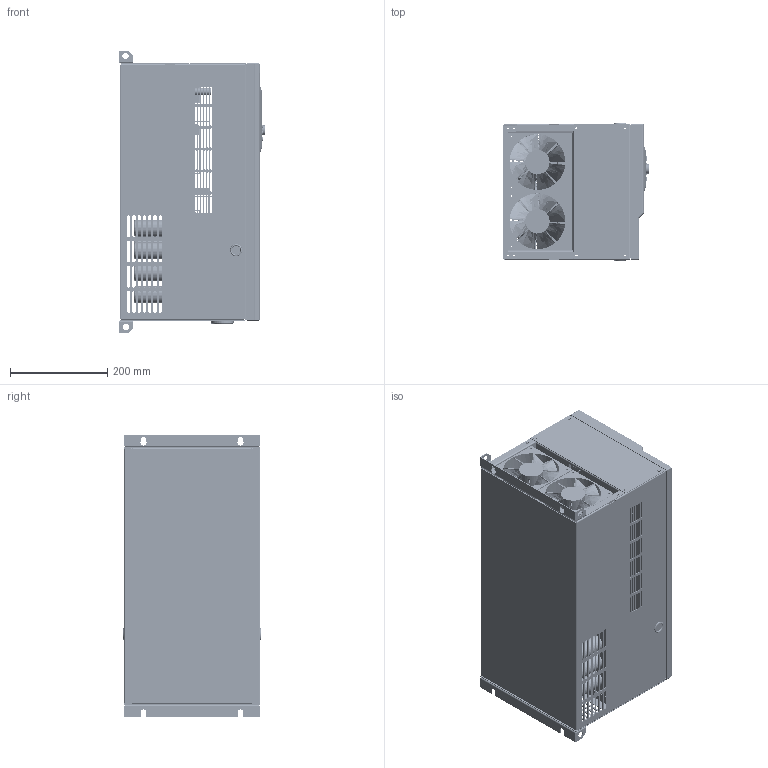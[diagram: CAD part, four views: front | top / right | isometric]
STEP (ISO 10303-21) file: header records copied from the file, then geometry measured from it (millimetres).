
FILE_DESCRIPTION(('STEP AP203'), '1');
FILE_NAME('Ïðåîáðàçîâàòåëü ÷àñòîòû _ LCI-G55_P75-4', '', ('UNSPECIFIED'), ('UNSPECIFIED'), 'C3D Converter', 'C3D Toolkit', '');
FILE_SCHEMA(('CONFIG_CONTROL_DESIGN'));
Length unit declared in the file: millimetre
Products named in the file (50): LCI-G55_P75-4; LCI-G55; LCI-MF-B; LCI-KP
Assembly tree (73 placements, depth 2):
  LCI-G55_P75-4
    LCI-G55
    LCI-G55  x2
    LCI-G55  x2
    LCI-G55  x2
    LCI-G55
    LCI-G55
    LCI-G55
    LCI-G55
    LCI-G55
    LCI-G55  x2
    LCI-G55
    LCI-G55  x3
    LCI-G55
    LCI-G55
    LCI-G55
    LCI-G55
    LCI-G55
    LCI-G55
    LCI-G55
    LCI-G55
    LCI-G55
    LCI-G55
    LCI-G55
    LCI-G55
    LCI-G55
    LCI-G55
    LCI-G55
    LCI-G55
    LCI-G55
    LCI-G55
    LCI-G55
    LCI-G55
    LCI-G55
    LCI-G55
    LCI-G55
    LCI-G55
    LCI-G55
    LCI-G55
    LCI-G55
    LCI-MF-B
    LCI-KP
    LCI-G55  x2
    LCI-G55
    LCI-G55  x2
    LCI-G55
    LCI-G55
    LCI-G55  x7
    LCI-G55  x9
    LCI-G55  x3
Bounding box: 302.1 x 284 x 580.9 mm (x, y, z)
Volume: 6157695.8 mm3; surface area: 5152540 mm2
Topology: 72 solids, 74 shells, 5077 faces, 13416 edges, 8552 vertices
Faces by surface type: plane 3154, cylinder 1381, extrusion 356, bspline 84, torus 74, cone 15, sphere 13
Full cylindrical faces by diameter (mm): 2.5 x26, 3.5 x42, 3.7 x4, 3.9 x3, 4 x9, 4.4 x16, 4.5 x63, 4.8 x8, 5 x14, 5.2 x15, 5.3 x4, 5.5 x34, 5.9 x10, 6 x2, 6.5 x9, 6.8 x2, 6.9 x8, 7 x41, 7.5 x18, 7.8 x1, 8 x12, 8.6 x9, 8.7 x2, 8.8 x4, 8.9 x1, 13 x4, 16.2 x2, 18 x4, 20 x5, 21 x1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
Entity records: 173902 total; most frequent: CARTESIAN_POINT 32539, ORIENTED_EDGE 21321, DIRECTION 20877, EDGE_CURVE 10661, VECTOR 7475, LINE 7243, VERTEX_POINT 7015, AXIS2_PLACEMENT_3D 6701
